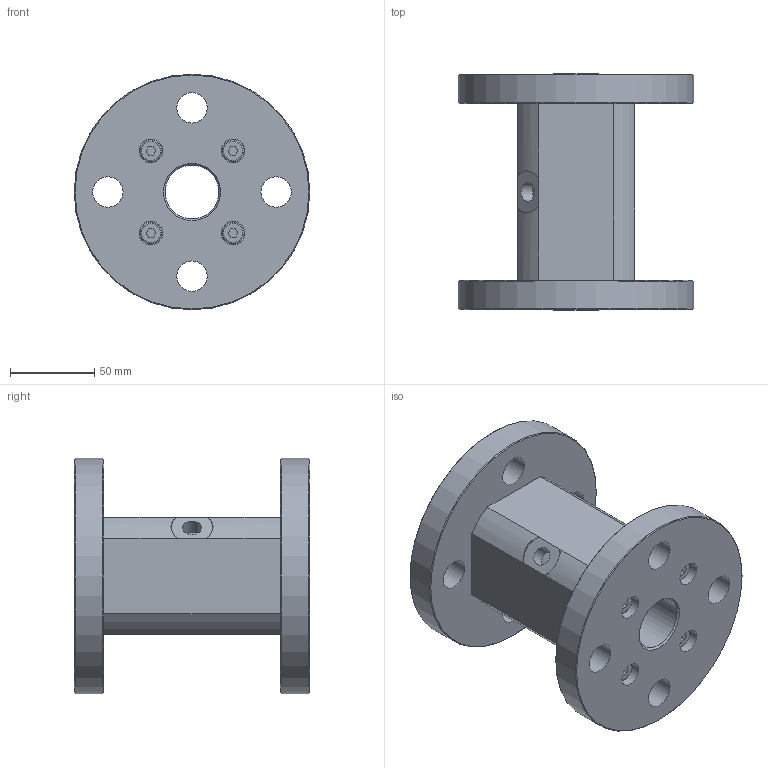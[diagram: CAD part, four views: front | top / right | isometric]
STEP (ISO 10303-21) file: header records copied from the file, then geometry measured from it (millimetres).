
FILE_DESCRIPTION(/* description */ (''),/* implementation_level */ '2;1');
FILE_NAME(/* name */ 'Serie21_QV32_assembly_VEREINFACHT.stp',/* time_stamp */ '2013-10-28T20:41:26+01:00',/* author */ (''),/* organization */ (''),/* preprocessor_version */ 'ST-DEVELOPER v11',/* originating_system */ 'SIEMENS PLM Software NX 7.5',/* authorisation */ '');
FILE_SCHEMA (('AUTOMOTIVE_DESIGN { 1 0 10303 214 1 1 1 1 }'));
Length unit declared in the file: millimetre
Products named in the file (1): memdC9A8e4e1
Bounding box: 140 x 140 x 140 mm (x, y, z)
Volume: 866619.6 mm3; surface area: 147746.8 mm2
Topology: 11 solids, 11 shells, 239 faces, 543 edges, 353 vertices
Faces by surface type: plane 101, cylinder 78, cone 34, torus 26
Full cylindrical faces by diameter (mm): 6.8 x8, 8 x8, 11.113 x1, 14 x8, 18 x8, 32 x3, 140 x2
Entity records: 6268 total; most frequent: DIRECTION 1138, CARTESIAN_POINT 1027, ORIENTED_EDGE 876, AXIS2_PLACEMENT_3D 463, EDGE_CURVE 438, EDGE_LOOP 370, VERTEX_POINT 322, ADVANCED_FACE 239
